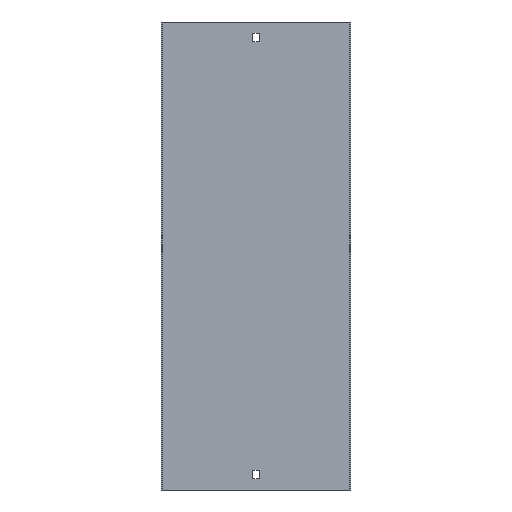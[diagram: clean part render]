
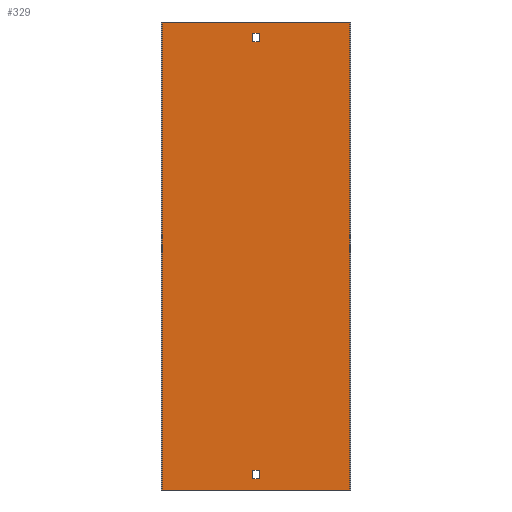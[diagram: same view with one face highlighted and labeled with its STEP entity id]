
A CAD part, front view. The second image highlights one B-rep face of the part: STEP entity #329.
In plain terms, the highlighted planar face has unit normal (0, -1, 0).
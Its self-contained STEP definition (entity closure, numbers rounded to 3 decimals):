
#7 = CARTESIAN_POINT ( 'NONE',  ( -101., -1., -238. ) ) ;
#13 = LINE ( 'NONE', #56, #576 ) ;
#26 = PLANE ( 'NONE',  #175 ) ;
#27 = EDGE_LOOP ( 'NONE', ( #529, #484, #293, #325 ) ) ;
#28 = FACE_BOUND ( 'NONE', #580, .T. ) ;
#30 = ORIENTED_EDGE ( 'NONE', *, *, #530, .T. ) ;
#40 = EDGE_LOOP ( 'NONE', ( #270, #322, #392, #470 ) ) ;
#44 = VECTOR ( 'NONE', #145, 1000. ) ;
#53 = EDGE_CURVE ( 'NONE', #553, #245, #55, .T. ) ;
#55 = LINE ( 'NONE', #508, #265 ) ;
#56 = CARTESIAN_POINT ( 'NONE',  ( -3.25, -1., 250. ) ) ;
#63 = CARTESIAN_POINT ( 'NONE',  ( 3.25, -1., 229. ) ) ;
#66 = VERTEX_POINT ( 'NONE', #435 ) ;
#67 = CARTESIAN_POINT ( 'NONE',  ( -3.25, -1., -229. ) ) ;
#68 = LINE ( 'NONE', #158, #146 ) ;
#78 = EDGE_CURVE ( 'NONE', #224, #533, #68, .T. ) ;
#87 = VERTEX_POINT ( 'NONE', #426 ) ;
#88 = EDGE_CURVE ( 'NONE', #227, #87, #376, .T. ) ;
#96 = VECTOR ( 'NONE', #289, 1000. ) ;
#99 = CARTESIAN_POINT ( 'NONE',  ( -100., -1., -250. ) ) ;
#111 = CARTESIAN_POINT ( 'NONE',  ( -3.25, -1., 238. ) ) ;
#115 = CARTESIAN_POINT ( 'NONE',  ( 3.25, -1., 238. ) ) ;
#118 = CARTESIAN_POINT ( 'NONE',  ( 3.25, -1., 250. ) ) ;
#140 = ORIENTED_EDGE ( 'NONE', *, *, #479, .T. ) ;
#144 = FACE_BOUND ( 'NONE', #40, .T. ) ;
#145 = DIRECTION ( 'NONE',  ( 0., 0., -1. ) ) ;
#146 = VECTOR ( 'NONE', #250, 1000. ) ;
#149 = CARTESIAN_POINT ( 'NONE',  ( 100., -1., -250. ) ) ;
#158 = CARTESIAN_POINT ( 'NONE',  ( -100., -1., 250. ) ) ;
#175 = AXIS2_PLACEMENT_3D ( 'NONE', #306, #481, #294 ) ;
#188 = EDGE_CURVE ( 'NONE', #87, #340, #406, .T. ) ;
#196 = DIRECTION ( 'NONE',  ( -1., 0., 0. ) ) ;
#205 = CARTESIAN_POINT ( 'NONE',  ( 3.25, -1., 250. ) ) ;
#206 = VECTOR ( 'NONE', #517, 1000. ) ;
#213 = DIRECTION ( 'NONE',  ( 0., 0., 1. ) ) ;
#217 = VECTOR ( 'NONE', #213, 1000. ) ;
#224 = VERTEX_POINT ( 'NONE', #459 ) ;
#227 = VERTEX_POINT ( 'NONE', #111 ) ;
#236 = CARTESIAN_POINT ( 'NONE',  ( -101., -1., -250. ) ) ;
#239 = CARTESIAN_POINT ( 'NONE',  ( -101., -1., 238. ) ) ;
#245 = VERTEX_POINT ( 'NONE', #475 ) ;
#250 = DIRECTION ( 'NONE',  ( 0., 0., -1. ) ) ;
#252 = LINE ( 'NONE', #205, #44 ) ;
#254 = VERTEX_POINT ( 'NONE', #577 ) ;
#255 = EDGE_CURVE ( 'NONE', #66, #457, #433, .T. ) ;
#265 = VECTOR ( 'NONE', #292, 1000. ) ;
#266 = CARTESIAN_POINT ( 'NONE',  ( -101., -1., 229. ) ) ;
#270 = ORIENTED_EDGE ( 'NONE', *, *, #88, .F. ) ;
#276 = LINE ( 'NONE', #236, #527 ) ;
#278 = VECTOR ( 'NONE', #551, 1000. ) ;
#282 = FACE_OUTER_BOUND ( 'NONE', #27, .T. ) ;
#285 = LINE ( 'NONE', #7, #464 ) ;
#286 = VERTEX_POINT ( 'NONE', #442 ) ;
#287 = DIRECTION ( 'NONE',  ( 0., 0., -1. ) ) ;
#289 = DIRECTION ( 'NONE',  ( -1., 0., 0. ) ) ;
#292 = DIRECTION ( 'NONE',  ( 1., 0., 0. ) ) ;
#293 = ORIENTED_EDGE ( 'NONE', *, *, #499, .T. ) ;
#294 = DIRECTION ( 'NONE',  ( 0., 0., -1. ) ) ;
#304 = DIRECTION ( 'NONE',  ( 1., 0., 0. ) ) ;
#306 = CARTESIAN_POINT ( 'NONE',  ( -101., -1., 250. ) ) ;
#322 = ORIENTED_EDGE ( 'NONE', *, *, #326, .F. ) ;
#325 = ORIENTED_EDGE ( 'NONE', *, *, #78, .T. ) ;
#326 = EDGE_CURVE ( 'NONE', #453, #227, #497, .T. ) ;
#329 = ADVANCED_FACE ( 'NONE', ( #144, #282, #28 ), #26, .T. ) ;
#334 = CARTESIAN_POINT ( 'NONE',  ( -3.25, -1., 250. ) ) ;
#340 = VERTEX_POINT ( 'NONE', #63 ) ;
#352 = EDGE_CURVE ( 'NONE', #340, #453, #514, .T. ) ;
#374 = DIRECTION ( 'NONE',  ( 0., 0., 1. ) ) ;
#375 = ORIENTED_EDGE ( 'NONE', *, *, #53, .T. ) ;
#376 = LINE ( 'NONE', #334, #455 ) ;
#378 = LINE ( 'NONE', #552, #96 ) ;
#392 = ORIENTED_EDGE ( 'NONE', *, *, #352, .F. ) ;
#402 = EDGE_CURVE ( 'NONE', #457, #533, #276, .T. ) ;
#406 = LINE ( 'NONE', #266, #546 ) ;
#426 = CARTESIAN_POINT ( 'NONE',  ( -3.25, -1., 229. ) ) ;
#429 = CARTESIAN_POINT ( 'NONE',  ( 100., -1., 250. ) ) ;
#433 = LINE ( 'NONE', #429, #206 ) ;
#435 = CARTESIAN_POINT ( 'NONE',  ( 100., -1., 250. ) ) ;
#442 = CARTESIAN_POINT ( 'NONE',  ( 3.25, -1., -238. ) ) ;
#453 = VERTEX_POINT ( 'NONE', #115 ) ;
#455 = VECTOR ( 'NONE', #287, 1000. ) ;
#457 = VERTEX_POINT ( 'NONE', #149 ) ;
#459 = CARTESIAN_POINT ( 'NONE',  ( -100., -1., 250. ) ) ;
#464 = VECTOR ( 'NONE', #196, 1000. ) ;
#470 = ORIENTED_EDGE ( 'NONE', *, *, #188, .F. ) ;
#475 = CARTESIAN_POINT ( 'NONE',  ( 3.25, -1., -229. ) ) ;
#479 = EDGE_CURVE ( 'NONE', #254, #553, #13, .T. ) ;
#481 = DIRECTION ( 'NONE',  ( 0., -1., 0. ) ) ;
#484 = ORIENTED_EDGE ( 'NONE', *, *, #255, .F. ) ;
#497 = LINE ( 'NONE', #239, #278 ) ;
#499 = EDGE_CURVE ( 'NONE', #66, #224, #378, .T. ) ;
#508 = CARTESIAN_POINT ( 'NONE',  ( -101., -1., -229. ) ) ;
#514 = LINE ( 'NONE', #118, #217 ) ;
#517 = DIRECTION ( 'NONE',  ( 0., 0., -1. ) ) ;
#522 = ORIENTED_EDGE ( 'NONE', *, *, #561, .T. ) ;
#527 = VECTOR ( 'NONE', #587, 1000. ) ;
#529 = ORIENTED_EDGE ( 'NONE', *, *, #402, .F. ) ;
#530 = EDGE_CURVE ( 'NONE', #245, #286, #252, .T. ) ;
#533 = VERTEX_POINT ( 'NONE', #99 ) ;
#546 = VECTOR ( 'NONE', #304, 1000. ) ;
#551 = DIRECTION ( 'NONE',  ( -1., 0., 0. ) ) ;
#552 = CARTESIAN_POINT ( 'NONE',  ( -101., -1., 250. ) ) ;
#553 = VERTEX_POINT ( 'NONE', #67 ) ;
#561 = EDGE_CURVE ( 'NONE', #286, #254, #285, .T. ) ;
#576 = VECTOR ( 'NONE', #374, 1000. ) ;
#577 = CARTESIAN_POINT ( 'NONE',  ( -3.25, -1., -238. ) ) ;
#580 = EDGE_LOOP ( 'NONE', ( #522, #140, #375, #30 ) ) ;
#587 = DIRECTION ( 'NONE',  ( -1., 0., 0. ) ) ;
